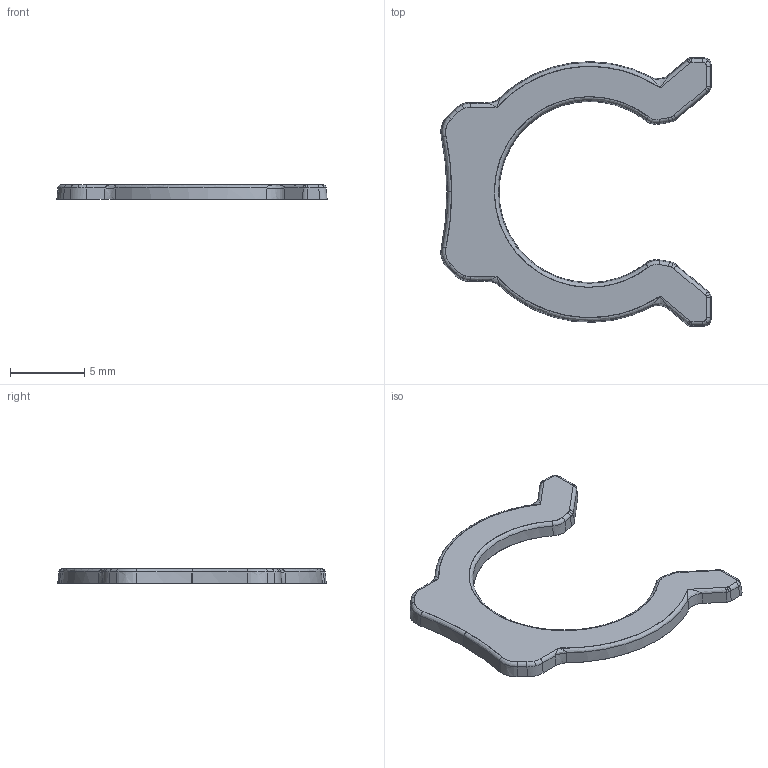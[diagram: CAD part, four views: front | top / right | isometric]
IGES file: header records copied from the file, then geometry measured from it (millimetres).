
Start section: SolidWorks IGES file using analytic representation for surfaces
Global section: file name: K:\Disegni Esecutivi\SERIE 50000\50980\50980_igs\509800032X9ROB.IGS; native system: SolidWorks 2016; preprocessor: SolidWorks 2016; author: cad05; date: 161219.074539; units: millimetre
Bounding box: 18.2 x 18.07 x 1 mm (x, y, z)
Surface area: 336.6 mm2 (no closed solid volume)
Topology: 0 solids, 0 shells, 86 faces, 623 edges, 620 vertices
Faces by surface type: bspline 57, revolution 29
